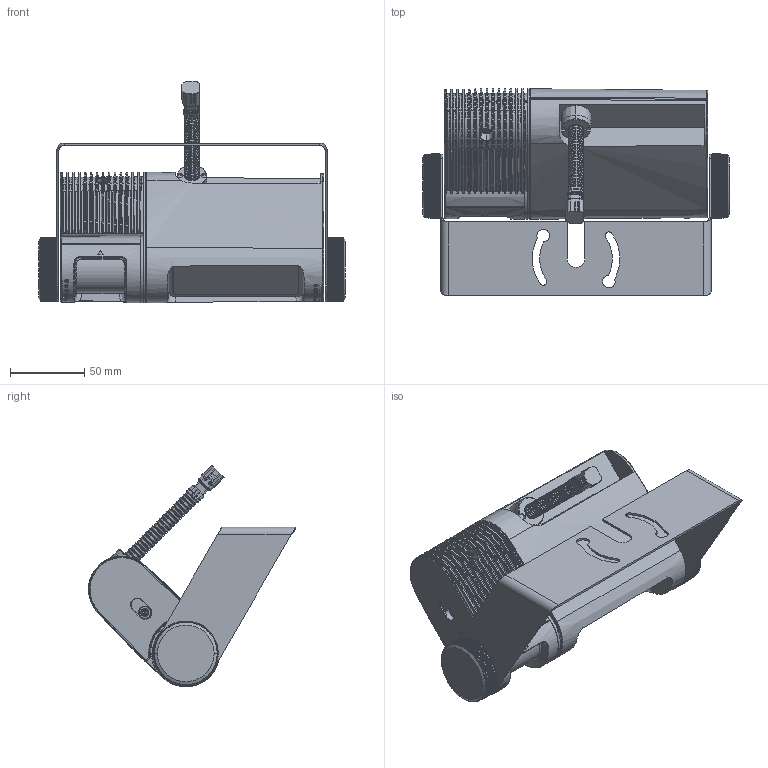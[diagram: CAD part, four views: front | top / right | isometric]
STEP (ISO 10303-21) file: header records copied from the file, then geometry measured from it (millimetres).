
FILE_DESCRIPTION (( 'STEP AP214' ), '1' );
FILE_NAME ('Helios2T.STEP', '2019-09-11T11:14:35', ( '' ), ( '' ), 'SwSTEP 2.0', 'SolidWorks 2017', '' );
FILE_SCHEMA (( 'AUTOMOTIVE_DESIGN' ));
Length unit declared in the file: millimetre
Products named in the file (1): Helios2T
Bounding box: 206.8 x 139.53 x 149.32 mm (x, y, z)
Volume: 737189 mm3; surface area: 130606.4 mm2
Topology: 3 solids, 3 shells, 3262 faces, 8788 edges, 5590 vertices
Faces by surface type: bspline 1178, plane 983, cone 445, cylinder 428, torus 224, sphere 4
Entity records: 153060 total; most frequent: CARTESIAN_POINT 83440, ORIENTED_EDGE 17558, DIRECTION 10271, EDGE_CURVE 8779, VERTEX_POINT 5590, B_SPLINE_CURVE_WITH_KNOTS 3768, AXIS2_PLACEMENT_3D 3582, EDGE_LOOP 3341
